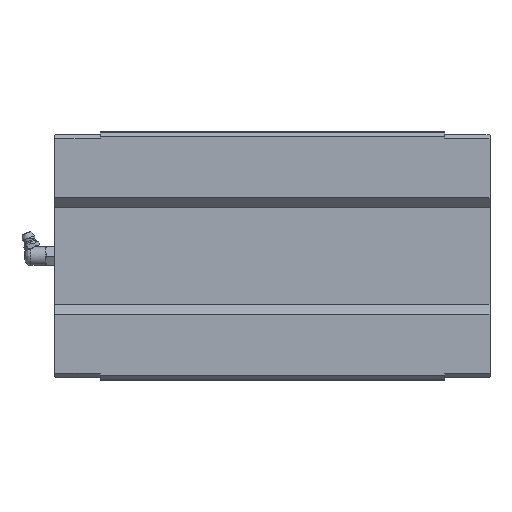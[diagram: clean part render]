
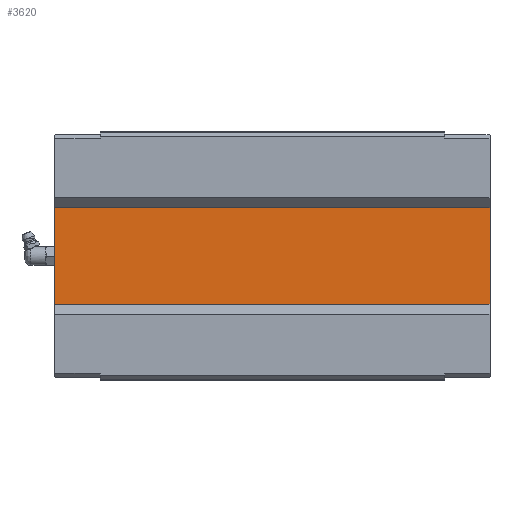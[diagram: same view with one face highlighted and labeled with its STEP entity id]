
A CAD part, front view. The second image highlights one B-rep face of the part: STEP entity #3620.
In plain terms, the highlighted planar face has unit normal (0, -1, 0).
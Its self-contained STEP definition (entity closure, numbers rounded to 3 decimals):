
#260 = DIRECTION ( 'NONE',  ( 0., 0., 1. ) ) ;
#268 = CARTESIAN_POINT ( 'NONE',  ( 339.5, 53., -26.23 ) ) ;
#298 = VERTEX_POINT ( 'NONE', #1939 ) ;
#421 = VERTEX_POINT ( 'NONE', #842 ) ;
#546 = LINE ( 'NONE', #268, #4031 ) ;
#842 = CARTESIAN_POINT ( 'NONE',  ( 339.5, 53., 26.23 ) ) ;
#1023 = ORIENTED_EDGE ( 'NONE', *, *, #2426, .F. ) ;
#1127 = ORIENTED_EDGE ( 'NONE', *, *, #1586, .F. ) ;
#1241 = ORIENTED_EDGE ( 'NONE', *, *, #3192, .F. ) ;
#1280 = VECTOR ( 'NONE', #4777, 1000. ) ;
#1406 = VECTOR ( 'NONE', #3017, 1000. ) ;
#1586 = EDGE_CURVE ( 'NONE', #3389, #298, #2422, .T. ) ;
#1625 = CARTESIAN_POINT ( 'NONE',  ( 560.5, 53., -26.23 ) ) ;
#1676 = CARTESIAN_POINT ( 'NONE',  ( 560.5, 53., 26.23 ) ) ;
#1715 = CARTESIAN_POINT ( 'NONE',  ( 560.5, 53., -26.23 ) ) ;
#1750 = DIRECTION ( 'NONE',  ( 0., 0., 1. ) ) ;
#1780 = CARTESIAN_POINT ( 'NONE',  ( 560.5, 53., -26.23 ) ) ;
#1845 = PLANE ( 'NONE',  #2450 ) ;
#1868 = CARTESIAN_POINT ( 'NONE',  ( 560.5, 53., 26.23 ) ) ;
#1922 = VERTEX_POINT ( 'NONE', #3905 ) ;
#1939 = CARTESIAN_POINT ( 'NONE',  ( 560.5, 53., -26.23 ) ) ;
#2061 = VECTOR ( 'NONE', #4289, 1000. ) ;
#2242 = LINE ( 'NONE', #1868, #1406 ) ;
#2422 = LINE ( 'NONE', #1625, #2061 ) ;
#2426 = EDGE_CURVE ( 'NONE', #298, #1922, #4208, .T. ) ;
#2450 = AXIS2_PLACEMENT_3D ( 'NONE', #1780, #3710, #260 ) ;
#2839 = EDGE_CURVE ( 'NONE', #421, #3389, #2242, .T. ) ;
#3017 = DIRECTION ( 'NONE',  ( 1., 0., 0. ) ) ;
#3192 = EDGE_CURVE ( 'NONE', #1922, #421, #546, .T. ) ;
#3297 = ORIENTED_EDGE ( 'NONE', *, *, #2839, .F. ) ;
#3389 = VERTEX_POINT ( 'NONE', #1676 ) ;
#3609 = EDGE_LOOP ( 'NONE', ( #1023, #1127, #3297, #1241 ) ) ;
#3620 = ADVANCED_FACE ( 'NONE', ( #4926 ), #1845, .F. ) ;
#3710 = DIRECTION ( 'NONE',  ( 0., 1., 0. ) ) ;
#3905 = CARTESIAN_POINT ( 'NONE',  ( 339.5, 53., -26.23 ) ) ;
#4031 = VECTOR ( 'NONE', #1750, 1000. ) ;
#4208 = LINE ( 'NONE', #1715, #1280 ) ;
#4289 = DIRECTION ( 'NONE',  ( 0., 0., -1. ) ) ;
#4777 = DIRECTION ( 'NONE',  ( -1., 0., 0. ) ) ;
#4926 = FACE_OUTER_BOUND ( 'NONE', #3609, .T. ) ;
